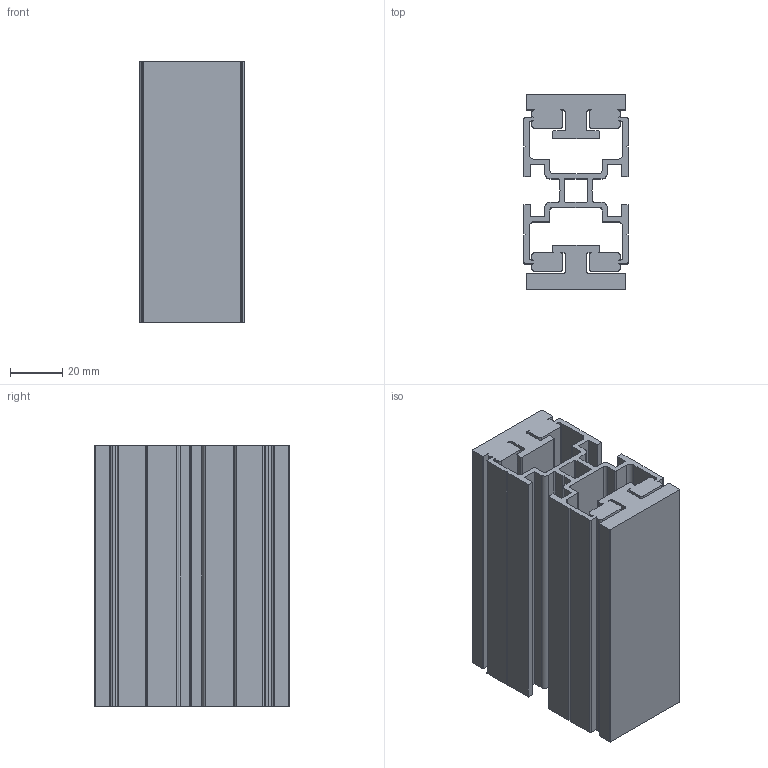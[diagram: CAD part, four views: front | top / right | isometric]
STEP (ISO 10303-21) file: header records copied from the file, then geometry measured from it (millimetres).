
FILE_DESCRIPTION((''),'2;1');
FILE_NAME('E:\Vault\Projekt\S380\3D S380\Serie 380\380-1000+380-2000.stp','2010-11-30T13:46:26',('Per'),(''),'Autodesk Inventor 2011','Autodesk Inventor 2011','');
FILE_SCHEMA(('AUTOMOTIVE_DESIGN { 1 0 10303 214 1 1 1 1 }'));
Length unit declared in the file: millimetre
Products named in the file (1): 380-1000+380-2000
Bounding box: 40 x 75 x 100 mm (x, y, z)
Volume: 144592.9 mm3; surface area: 77610.7 mm2
Topology: 1 solids, 1 shells, 196 faces, 582 edges, 388 vertices
Faces by surface type: plane 116, cylinder 80
Entity records: 6641 total; most frequent: CARTESIAN_POINT 1167, ORIENTED_EDGE 1164, DIRECTION 1136, EDGE_CURVE 582, VECTOR 422, LINE 422, VERTEX_POINT 388, AXIS2_PLACEMENT_3D 357
